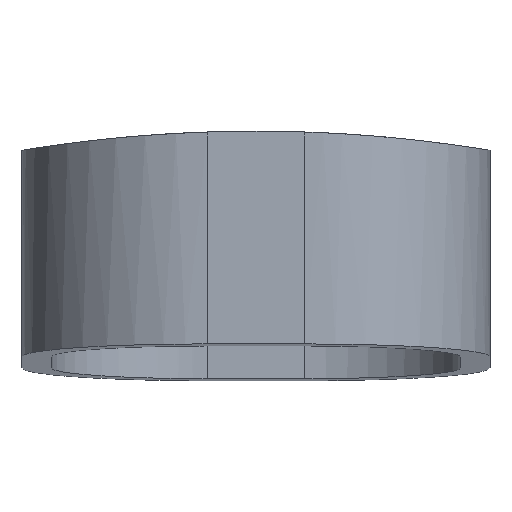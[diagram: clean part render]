
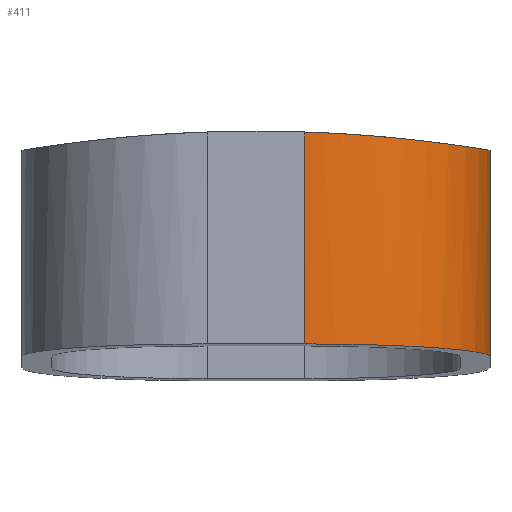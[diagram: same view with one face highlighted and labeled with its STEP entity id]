
A CAD part, front view. The second image highlights one B-rep face of the part: STEP entity #411.
In plain terms, the highlighted cylindrical face has radius 30.15 mm (diameter 60.3 mm), a partial arc.
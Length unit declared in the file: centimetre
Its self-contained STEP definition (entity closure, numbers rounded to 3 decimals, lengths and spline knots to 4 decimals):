
#110=B_SPLINE_CURVE_WITH_KNOTS('',3,(#634,#635,#636,#637,#638,#639,#640,
#641,#642,#643,#644,#645,#646,#647,#648,#649,#650,#651,#652,#653,#654,#655,
#656),.UNSPECIFIED.,.F.,.U.,(4,3,2,2,2,2,2,2,2,2,4),(-0.5686,0.,
0.5686,1.1372,1.7059,2.2745,2.8443,
3.4142,3.984,4.5539,5.1218),
 .UNSPECIFIED.);
#118=CYLINDRICAL_SURFACE('',#439,3.015);
#139=VECTOR('',#493,1.);
#141=VECTOR('',#499,1.);
#167=LINE('',#626,#139);
#169=LINE('',#632,#141);
#193=VERTEX_POINT('',#557);
#194=VERTEX_POINT('',#559);
#202=VERTEX_POINT('',#627);
#204=VERTEX_POINT('',#633);
#219=ELLIPSE('',#430,3.0223,3.015);
#233=EDGE_CURVE('',#194,#193,#219,.T.);
#246=EDGE_CURVE('',#194,#202,#167,.T.);
#249=EDGE_CURVE('',#193,#204,#169,.T.);
#250=EDGE_CURVE('',#204,#202,#110,.T.);
#305=ORIENTED_EDGE('',*,*,#233,.T.);
#306=ORIENTED_EDGE('',*,*,#249,.T.);
#307=ORIENTED_EDGE('',*,*,#250,.T.);
#308=ORIENTED_EDGE('',*,*,#246,.F.);
#372=EDGE_LOOP('',(#305,#306,#307,#308));
#392=FACE_BOUND('',#372,.T.);
#411=ADVANCED_FACE('',(#392),#118,.T.);
#430=AXIS2_PLACEMENT_3D('',#558,#472,#473);
#439=AXIS2_PLACEMENT_3D('',#631,#497,#498);
#472=DIRECTION('',(0.,0.07,0.998));
#473=DIRECTION('',(0.,3.015,-0.211));
#493=DIRECTION('',(0.,0.,1.));
#497=DIRECTION('',(0.,0.,1.));
#498=DIRECTION('',(3.015,0.,0.));
#499=DIRECTION('',(0.,0.,1.));
#557=CARTESIAN_POINT('',(3.81,-1.2725,0.3886));
#558=CARTESIAN_POINT('',(0.795,-1.2725,0.3886));
#559=CARTESIAN_POINT('',(0.795,-4.2875,0.5994));
#626=CARTESIAN_POINT('',(0.795,-4.2875,0.));
#627=CARTESIAN_POINT('',(0.795,-4.2875,4.0505));
#631=CARTESIAN_POINT('',(0.795,-1.2725,0.));
#632=CARTESIAN_POINT('',(3.81,-1.2725,0.));
#633=CARTESIAN_POINT('',(3.81,-1.2725,3.7518));
#634=CARTESIAN_POINT('',(3.7536,-0.6923,3.761));
#635=CARTESIAN_POINT('',(3.7918,-0.8871,3.7548));
#636=CARTESIAN_POINT('',(3.81,-1.083,3.7518));
#637=CARTESIAN_POINT('',(3.81,-1.2725,3.7518));
#638=CARTESIAN_POINT('',(3.81,-1.4621,3.7518));
#639=CARTESIAN_POINT('',(3.7918,-1.658,3.7548));
#640=CARTESIAN_POINT('',(3.7155,-2.0475,3.7672));
#641=CARTESIAN_POINT('',(3.6573,-2.2411,3.7766));
#642=CARTESIAN_POINT('',(3.5035,-2.6122,3.8004));
#643=CARTESIAN_POINT('',(3.4078,-2.79,3.8148));
#644=CARTESIAN_POINT('',(3.1868,-3.1188,3.8463));
#645=CARTESIAN_POINT('',(3.0615,-3.2697,3.8633));
#646=CARTESIAN_POINT('',(2.7944,-3.5371,3.8969));
#647=CARTESIAN_POINT('',(2.6433,-3.6628,3.9148));
#648=CARTESIAN_POINT('',(2.3142,-3.8843,3.9499));
#649=CARTESIAN_POINT('',(2.1362,-3.9802,3.967));
#650=CARTESIAN_POINT('',(1.7648,-4.1344,3.9981));
#651=CARTESIAN_POINT('',(1.571,-4.1927,4.012));
#652=CARTESIAN_POINT('',(1.181,-4.2693,4.035));
#653=CARTESIAN_POINT('',(0.9849,-4.2875,4.044));
#654=CARTESIAN_POINT('',(0.6058,-4.2875,4.0569));
#655=CARTESIAN_POINT('',(0.4101,-4.2694,4.0612));
#656=CARTESIAN_POINT('',(0.2155,-4.2313,4.063));
